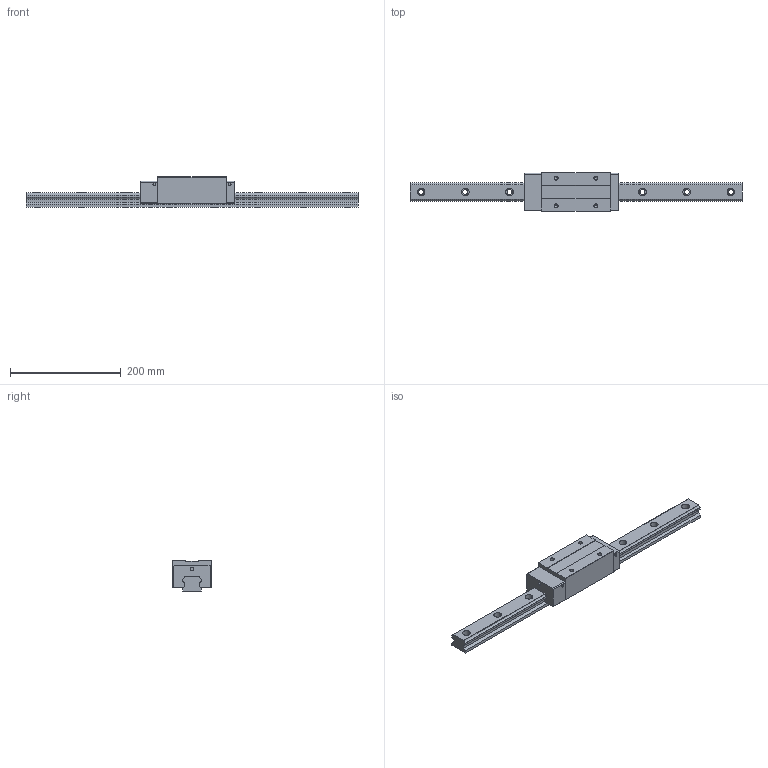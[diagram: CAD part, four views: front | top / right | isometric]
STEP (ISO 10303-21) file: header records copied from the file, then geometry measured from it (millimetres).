
FILE_DESCRIPTION (( 'STEP AP203' ), '1' );
FILE_NAME ('TRH35VE-BN.STEP', '2024-07-10T03:54:48', ( '' ), ( '' ), 'SwSTEP 2.0', 'SolidWorks 2022', '' );
FILE_SCHEMA (( 'CONFIG_CONTROL_DESIGN' ));
Length unit declared in the file: millimetre
Products named in the file (1): TRH35VE-BN
Bounding box: 600 x 70 x 55 mm (x, y, z)
Volume: 883268.7 mm3; surface area: 135698.5 mm2
Topology: 2 solids, 2 shells, 186 faces, 488 edges, 316 vertices
Faces by surface type: cylinder 88, plane 82, cone 16
Entity records: 5819 total; most frequent: DIRECTION 1038, CARTESIAN_POINT 983, ORIENTED_EDGE 960, EDGE_CURVE 480, AXIS2_PLACEMENT_3D 371, VERTEX_POINT 316, VECTOR 296, LINE 296
